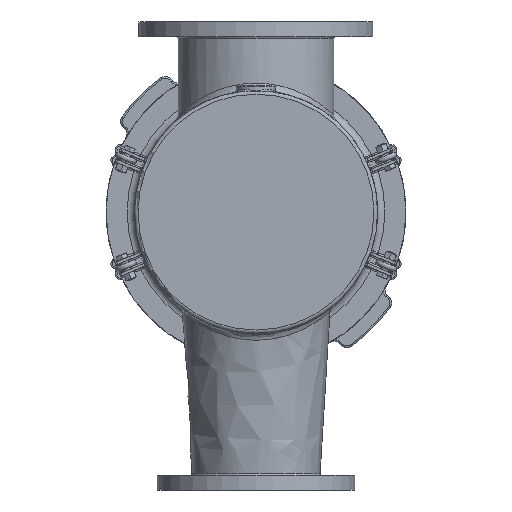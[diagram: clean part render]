
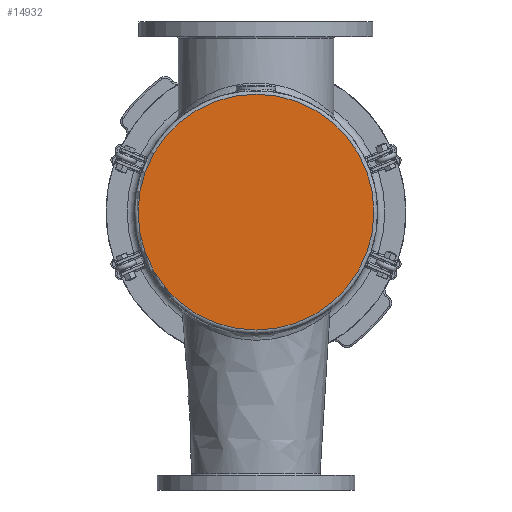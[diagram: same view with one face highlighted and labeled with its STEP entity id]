
A CAD part, front view. The second image highlights one B-rep face of the part: STEP entity #14932.
In plain terms, the highlighted planar face has unit normal (0, -1, 0).
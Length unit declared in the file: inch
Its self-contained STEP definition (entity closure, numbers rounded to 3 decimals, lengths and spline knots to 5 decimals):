
#2116=PLANE('',#15937);
#3351=FACE_OUTER_BOUND('',#4312,.T.);
#4312=EDGE_LOOP('',(#9938));
#5482=CIRCLE('',#15929,8.0625);
#6425=VERTEX_POINT('',#22868);
#7774=EDGE_CURVE('',#6425,#6425,#5482,.T.);
#9938=ORIENTED_EDGE('',*,*,#7774,.F.);
#14932=ADVANCED_FACE('',(#3351),#2116,.F.);
#15929=AXIS2_PLACEMENT_3D('',#22869,#17905,#17906);
#15937=AXIS2_PLACEMENT_3D('',#22880,#17921,#17922);
#17905=DIRECTION('center_axis',(0.,1.,0.));
#17906=DIRECTION('ref_axis',(1.,0.,0.));
#17921=DIRECTION('center_axis',(0.,1.,0.));
#17922=DIRECTION('ref_axis',(0.,0.,1.));
#22868=CARTESIAN_POINT('',(-8.0625,0.,0.));
#22869=CARTESIAN_POINT('Origin',(0.,0.,0.));
#22880=CARTESIAN_POINT('Origin',(0.,0.,0.));
